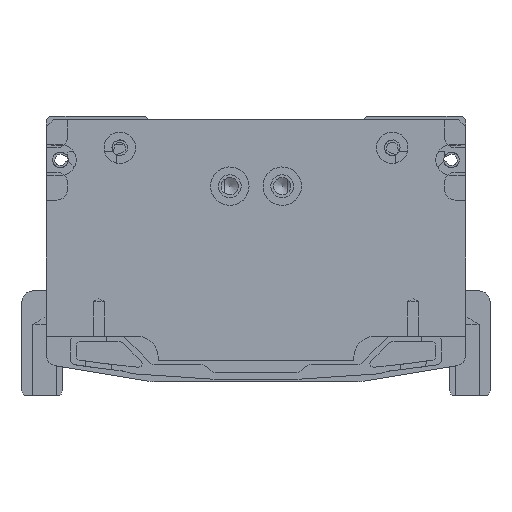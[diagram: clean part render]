
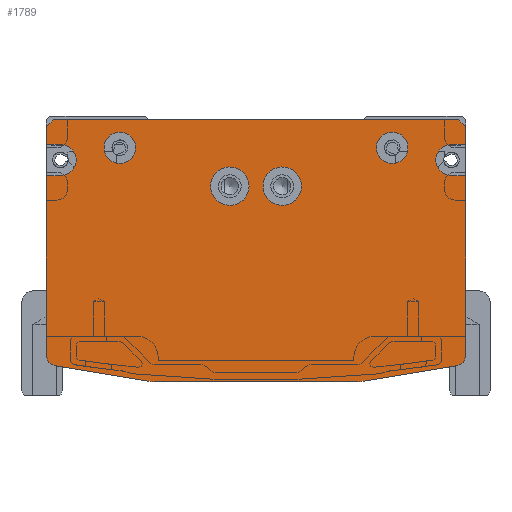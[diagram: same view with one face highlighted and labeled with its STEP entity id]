
A CAD part, front view. The second image highlights one B-rep face of the part: STEP entity #1789.
In plain terms, the highlighted planar face has unit normal (0, -1, 0).
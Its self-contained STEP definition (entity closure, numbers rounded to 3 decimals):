
#1789=ADVANCED_FACE('',(#5292,#5293,#5294,#5295,#5296),#2490,.F.);
#2490=PLANE('',#17771);
#3036=LINE('',#25919,#4175);
#3040=LINE('',#25927,#4179);
#3173=LINE('',#26841,#4312);
#3200=LINE('',#26895,#4339);
#3204=LINE('',#26903,#4343);
#3378=LINE('',#28090,#4517);
#3380=LINE('',#28093,#4519);
#3384=LINE('',#28100,#4523);
#3387=LINE('',#28109,#4526);
#3400=LINE('',#28144,#4539);
#3405=LINE('',#28158,#4544);
#3409=LINE('',#28170,#4548);
#3431=LINE('',#28232,#4570);
#3434=LINE('',#28241,#4573);
#4175=VECTOR('',#19917,1.);
#4179=VECTOR('',#19921,1.);
#4312=VECTOR('',#20364,1.);
#4339=VECTOR('',#20405,1.);
#4343=VECTOR('',#20409,1.);
#4517=VECTOR('',#21217,1.);
#4519=VECTOR('',#21221,1.);
#4523=VECTOR('',#21227,1.);
#4526=VECTOR('',#21238,1.);
#4539=VECTOR('',#21271,1.);
#4544=VECTOR('',#21284,1.);
#4548=VECTOR('',#21296,1.);
#4570=VECTOR('',#21372,1.);
#4573=VECTOR('',#21383,1.);
#5292=FACE_BOUND('',#6562,.T.);
#5293=FACE_BOUND('',#6563,.T.);
#5294=FACE_BOUND('',#6564,.T.);
#5295=FACE_BOUND('',#6565,.T.);
#5296=FACE_BOUND('',#6566,.T.);
#6562=EDGE_LOOP('',(#9729));
#6563=EDGE_LOOP('',(#9730));
#6564=EDGE_LOOP('',(#9731,#9732,#9733,#9734,#9735,#9736,#9737,#9738,#9739,
#9740,#9741,#9742,#9743,#9744,#9745,#9746,#9747,#9748,#9749,#9750));
#6565=EDGE_LOOP('',(#9751));
#6566=EDGE_LOOP('',(#9752));
#9729=ORIENTED_EDGE('',*,*,#14951,.T.);
#9730=ORIENTED_EDGE('',*,*,#14955,.T.);
#9731=ORIENTED_EDGE('',*,*,#15016,.T.);
#9732=ORIENTED_EDGE('',*,*,#15012,.F.);
#9733=ORIENTED_EDGE('',*,*,#15010,.F.);
#9734=ORIENTED_EDGE('',*,*,#15007,.F.);
#9735=ORIENTED_EDGE('',*,*,#15003,.T.);
#9736=ORIENTED_EDGE('',*,*,#15000,.T.);
#9737=ORIENTED_EDGE('',*,*,#14645,.F.);
#9738=ORIENTED_EDGE('',*,*,#14986,.T.);
#9739=ORIENTED_EDGE('',*,*,#14983,.T.);
#9740=ORIENTED_EDGE('',*,*,#14981,.F.);
#9741=ORIENTED_EDGE('',*,*,#14641,.F.);
#9742=ORIENTED_EDGE('',*,*,#14977,.T.);
#9743=ORIENTED_EDGE('',*,*,#14614,.F.);
#9744=ORIENTED_EDGE('',*,*,#14975,.T.);
#9745=ORIENTED_EDGE('',*,*,#14354,.F.);
#9746=ORIENTED_EDGE('',*,*,#15051,.T.);
#9747=ORIENTED_EDGE('',*,*,#15048,.T.);
#9748=ORIENTED_EDGE('',*,*,#15046,.F.);
#9749=ORIENTED_EDGE('',*,*,#14350,.F.);
#9750=ORIENTED_EDGE('',*,*,#15019,.T.);
#9751=ORIENTED_EDGE('',*,*,#14962,.F.);
#9752=ORIENTED_EDGE('',*,*,#14958,.F.);
#12541=VERTEX_POINT('',#25918);
#12542=VERTEX_POINT('',#25920);
#12545=VERTEX_POINT('',#25926);
#12546=VERTEX_POINT('',#25928);
#12675=VERTEX_POINT('',#26840);
#12676=VERTEX_POINT('',#26842);
#12695=VERTEX_POINT('',#26894);
#12696=VERTEX_POINT('',#26896);
#12699=VERTEX_POINT('',#26902);
#12700=VERTEX_POINT('',#26904);
#12915=VERTEX_POINT('',#28033);
#12919=VERTEX_POINT('',#28044);
#12922=VERTEX_POINT('',#28053);
#12925=VERTEX_POINT('',#28063);
#12933=VERTEX_POINT('',#28098);
#12935=VERTEX_POINT('',#28105);
#12946=VERTEX_POINT('',#28139);
#12948=VERTEX_POINT('',#28145);
#12951=VERTEX_POINT('',#28153);
#12953=VERTEX_POINT('',#28159);
#12954=VERTEX_POINT('',#28163);
#12957=VERTEX_POINT('',#28171);
#12969=VERTEX_POINT('',#28230);
#12971=VERTEX_POINT('',#28237);
#14350=EDGE_CURVE('',#12541,#12542,#3036,.T.);
#14354=EDGE_CURVE('',#12545,#12546,#3040,.T.);
#14614=EDGE_CURVE('',#12675,#12676,#3173,.T.);
#14641=EDGE_CURVE('',#12695,#12696,#3200,.T.);
#14645=EDGE_CURVE('',#12699,#12700,#3204,.T.);
#14951=EDGE_CURVE('',#12915,#12915,#16334,.T.);
#14955=EDGE_CURVE('',#12919,#12919,#16338,.T.);
#14958=EDGE_CURVE('',#12922,#12922,#16341,.T.);
#14962=EDGE_CURVE('',#12925,#12925,#16345,.T.);
#14975=EDGE_CURVE('',#12675,#12546,#3378,.T.);
#14977=EDGE_CURVE('',#12695,#12676,#3380,.T.);
#14981=EDGE_CURVE('',#12696,#12933,#3384,.T.);
#14983=EDGE_CURVE('',#12935,#12933,#16352,.T.);
#14986=EDGE_CURVE('',#12699,#12935,#3387,.T.);
#15000=EDGE_CURVE('',#12946,#12700,#16355,.T.);
#15003=EDGE_CURVE('',#12948,#12946,#3400,.T.);
#15007=EDGE_CURVE('',#12948,#12951,#16358,.T.);
#15010=EDGE_CURVE('',#12951,#12953,#3405,.T.);
#15012=EDGE_CURVE('',#12953,#12954,#16359,.T.);
#15016=EDGE_CURVE('',#12957,#12954,#3409,.T.);
#15019=EDGE_CURVE('',#12541,#12957,#16362,.T.);
#15046=EDGE_CURVE('',#12542,#12969,#3431,.T.);
#15048=EDGE_CURVE('',#12971,#12969,#16370,.T.);
#15051=EDGE_CURVE('',#12545,#12971,#3434,.T.);
#16334=CIRCLE('',#17672,5.5);
#16338=CIRCLE('',#17679,5.5);
#16341=CIRCLE('',#17685,4.5);
#16345=CIRCLE('',#17692,4.5);
#16352=CIRCLE('',#17710,4.5);
#16355=CIRCLE('',#17719,3.);
#16358=CIRCLE('',#17724,10.);
#16359=CIRCLE('',#17727,10.);
#16362=CIRCLE('',#17732,3.);
#16370=CIRCLE('',#17759,4.5);
#17672=AXIS2_PLACEMENT_3D('',#28032,#21142,#21143);
#17679=AXIS2_PLACEMENT_3D('',#28043,#21156,#21157);
#17685=AXIS2_PLACEMENT_3D('',#28052,#21168,#21169);
#17692=AXIS2_PLACEMENT_3D('',#28062,#21182,#21183);
#17710=AXIS2_PLACEMENT_3D('',#28104,#21232,#21233);
#17719=AXIS2_PLACEMENT_3D('',#28138,#21264,#21265);
#17724=AXIS2_PLACEMENT_3D('',#28152,#21278,#21279);
#17727=AXIS2_PLACEMENT_3D('',#28162,#21288,#21289);
#17732=AXIS2_PLACEMENT_3D('',#28175,#21302,#21303);
#17759=AXIS2_PLACEMENT_3D('',#28236,#21377,#21378);
#17771=AXIS2_PLACEMENT_3D('',#28258,#21408,#21409);
#19917=DIRECTION('',(0.,0.,1.));
#19921=DIRECTION('',(0.,0.,1.));
#20364=DIRECTION('',(1.,0.,0.));
#20405=DIRECTION('',(0.,0.,-1.));
#20409=DIRECTION('',(0.,0.,-1.));
#21142=DIRECTION('',(0.,1.,0.));
#21143=DIRECTION('',(1.,0.,0.));
#21156=DIRECTION('',(0.,1.,0.));
#21157=DIRECTION('',(1.,0.,0.));
#21168=DIRECTION('',(0.,-1.,0.));
#21169=DIRECTION('',(1.,0.,0.));
#21182=DIRECTION('',(0.,-1.,0.));
#21183=DIRECTION('',(1.,0.,0.));
#21217=DIRECTION('',(-0.707,0.,-0.707));
#21221=DIRECTION('',(-0.707,0.,0.707));
#21227=DIRECTION('',(-1.,0.,0.));
#21232=DIRECTION('',(0.,1.,0.));
#21233=DIRECTION('',(0.,0.,-1.));
#21238=DIRECTION('',(-1.,0.,0.));
#21264=DIRECTION('',(0.,-1.,0.));
#21265=DIRECTION('',(0.164,0.,-0.986));
#21271=DIRECTION('',(0.986,0.,0.164));
#21278=DIRECTION('',(0.,1.,0.));
#21279=DIRECTION('',(0.164,0.,-0.986));
#21284=DIRECTION('',(-1.,0.,0.));
#21288=DIRECTION('',(0.,1.,0.));
#21289=DIRECTION('',(0.,0.,-1.));
#21296=DIRECTION('',(0.986,0.,-0.164));
#21302=DIRECTION('',(0.,-1.,0.));
#21303=DIRECTION('',(-1.,0.,0.));
#21372=DIRECTION('',(1.,0.,0.));
#21377=DIRECTION('',(0.,1.,0.));
#21378=DIRECTION('',(0.,0.,1.));
#21383=DIRECTION('',(1.,0.,0.));
#21408=DIRECTION('',(0.,1.,0.));
#21409=DIRECTION('',(1.,0.,0.));
#25918=CARTESIAN_POINT('',(-60.,-2212.,-69.459));
#25919=CARTESIAN_POINT('',(-60.,-2212.,-69.459));
#25920=CARTESIAN_POINT('',(-60.,-2212.,-18.));
#25926=CARTESIAN_POINT('',(-60.,-2212.,-9.));
#25927=CARTESIAN_POINT('',(-60.,-2212.,-9.));
#25928=CARTESIAN_POINT('',(-60.,-2212.,-4.));
#26840=CARTESIAN_POINT('',(-58.,-2212.,-2.));
#26841=CARTESIAN_POINT('',(-58.,-2212.,-2.));
#26842=CARTESIAN_POINT('',(58.,-2212.,-2.));
#26894=CARTESIAN_POINT('',(60.,-2212.,-4.));
#26895=CARTESIAN_POINT('',(60.,-2212.,-4.));
#26896=CARTESIAN_POINT('',(60.,-2212.,-9.));
#26902=CARTESIAN_POINT('',(60.,-2212.,-18.));
#26903=CARTESIAN_POINT('',(60.,-2212.,-18.));
#26904=CARTESIAN_POINT('',(60.,-2212.,-69.459));
#28032=CARTESIAN_POINT('',(7.5,-2212.,-21.));
#28033=CARTESIAN_POINT('',(13.,-2212.,-21.));
#28043=CARTESIAN_POINT('',(-7.5,-2212.,-21.));
#28044=CARTESIAN_POINT('',(-2.,-2212.,-21.));
#28052=CARTESIAN_POINT('',(-39.,-2212.,-10.));
#28053=CARTESIAN_POINT('',(-34.5,-2212.,-10.));
#28062=CARTESIAN_POINT('',(39.,-2212.,-10.));
#28063=CARTESIAN_POINT('',(43.5,-2212.,-10.));
#28090=CARTESIAN_POINT('',(-58.,-2212.,-2.));
#28093=CARTESIAN_POINT('',(60.,-2212.,-4.));
#28098=CARTESIAN_POINT('',(56.,-2212.,-9.));
#28100=CARTESIAN_POINT('',(60.,-2212.,-9.));
#28104=CARTESIAN_POINT('',(56.,-2212.,-13.5));
#28105=CARTESIAN_POINT('',(56.,-2212.,-18.));
#28109=CARTESIAN_POINT('',(60.,-2212.,-18.));
#28138=CARTESIAN_POINT('',(57.,-2212.,-69.459));
#28139=CARTESIAN_POINT('',(57.493,-2212.,-72.418));
#28144=CARTESIAN_POINT('',(30.816,-2212.,-76.864));
#28145=CARTESIAN_POINT('',(30.816,-2212.,-76.864));
#28152=CARTESIAN_POINT('',(29.172,-2212.,-67.));
#28153=CARTESIAN_POINT('',(29.172,-2212.,-77.));
#28158=CARTESIAN_POINT('',(29.172,-2212.,-77.));
#28159=CARTESIAN_POINT('',(-29.172,-2212.,-77.));
#28162=CARTESIAN_POINT('',(-29.172,-2212.,-67.));
#28163=CARTESIAN_POINT('',(-30.816,-2212.,-76.864));
#28170=CARTESIAN_POINT('',(-57.493,-2212.,-72.418));
#28171=CARTESIAN_POINT('',(-57.493,-2212.,-72.418));
#28175=CARTESIAN_POINT('',(-57.,-2212.,-69.459));
#28230=CARTESIAN_POINT('',(-56.,-2212.,-18.));
#28232=CARTESIAN_POINT('',(-60.,-2212.,-18.));
#28236=CARTESIAN_POINT('',(-56.,-2212.,-13.5));
#28237=CARTESIAN_POINT('',(-56.,-2212.,-9.));
#28241=CARTESIAN_POINT('',(-60.,-2212.,-9.));
#28258=CARTESIAN_POINT('',(0.,-2212.,-2.));
